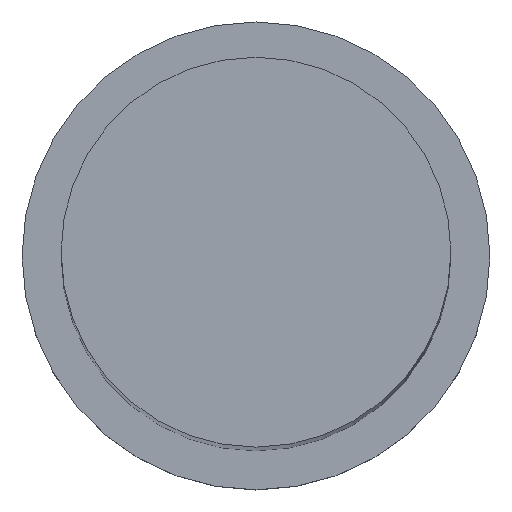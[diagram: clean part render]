
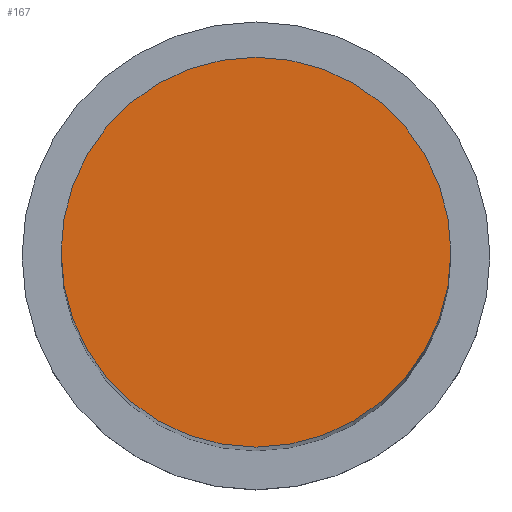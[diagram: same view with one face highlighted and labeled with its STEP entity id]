
A CAD part, top view. The second image highlights one B-rep face of the part: STEP entity #167.
In plain terms, the highlighted planar face has unit normal (0, 0, 1).
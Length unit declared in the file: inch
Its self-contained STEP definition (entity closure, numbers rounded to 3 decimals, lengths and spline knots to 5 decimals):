
#2 = VERTEX_POINT ( 'NONE', #25 ) ;
#16 = EDGE_CURVE ( 'NONE', #2, #151, #213, .T. ) ;
#20 = EDGE_CURVE ( 'NONE', #151, #2, #88, .T. ) ;
#25 = CARTESIAN_POINT ( 'NONE',  ( 0.125, 0., 1.425 ) ) ;
#29 = DIRECTION ( 'NONE',  ( 0., 0., 1. ) ) ;
#35 = DIRECTION ( 'NONE',  ( 0., 0., 1. ) ) ;
#71 = ORIENTED_EDGE ( 'NONE', *, *, #16, .T. ) ;
#88 = CIRCLE ( 'NONE', #144, 0.125 ) ;
#91 = CARTESIAN_POINT ( 'NONE',  ( 0., 0., 1.425 ) ) ;
#96 = DIRECTION ( 'NONE',  ( 1., 0., 0. ) ) ;
#112 = FACE_OUTER_BOUND ( 'NONE', #208, .T. ) ;
#120 = DIRECTION ( 'NONE',  ( 0., 0., 1. ) ) ;
#131 = AXIS2_PLACEMENT_3D ( 'NONE', #132, #29, #96 ) ;
#132 = CARTESIAN_POINT ( 'NONE',  ( 0., 0., 1.425 ) ) ;
#138 = DIRECTION ( 'NONE',  ( 1., 0., 0. ) ) ;
#144 = AXIS2_PLACEMENT_3D ( 'NONE', #212, #120, #192 ) ;
#151 = VERTEX_POINT ( 'NONE', #199 ) ;
#156 = AXIS2_PLACEMENT_3D ( 'NONE', #91, #35, #138 ) ;
#167 = ADVANCED_FACE ( 'NONE', ( #112 ), #184, .T. ) ;
#171 = ORIENTED_EDGE ( 'NONE', *, *, #20, .T. ) ;
#184 = PLANE ( 'NONE',  #131 ) ;
#192 = DIRECTION ( 'NONE',  ( 1., 0., 0. ) ) ;
#199 = CARTESIAN_POINT ( 'NONE',  ( -0.125, 0., 1.425 ) ) ;
#208 = EDGE_LOOP ( 'NONE', ( #171, #71 ) ) ;
#212 = CARTESIAN_POINT ( 'NONE',  ( 0., 0., 1.425 ) ) ;
#213 = CIRCLE ( 'NONE', #156, 0.125 ) ;
